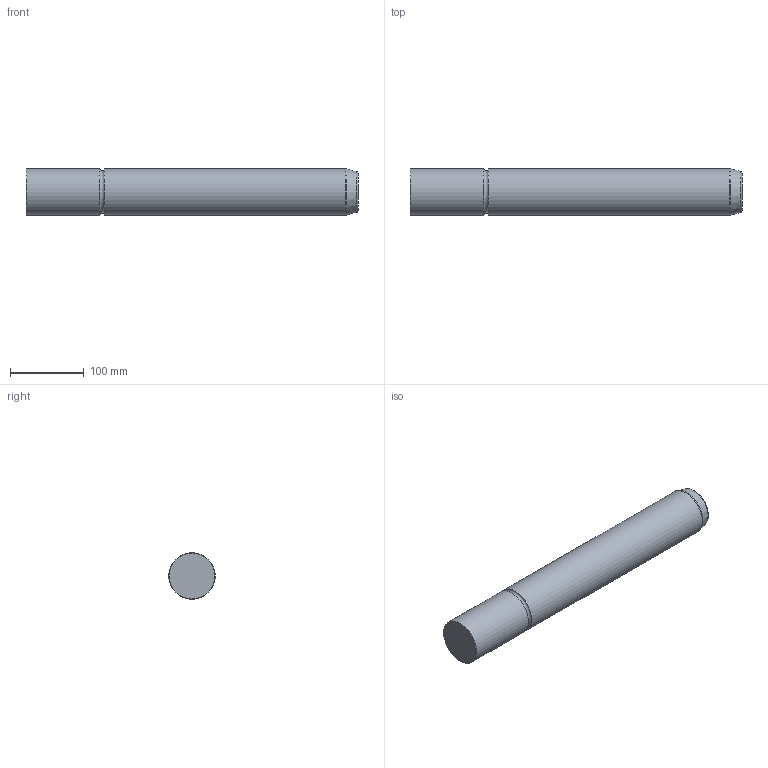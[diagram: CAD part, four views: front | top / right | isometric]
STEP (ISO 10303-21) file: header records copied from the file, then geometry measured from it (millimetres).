
FILE_DESCRIPTION(/* description */ ('Impex Ready, www.impex-ready.pl'),/* implementation_level */ '2;1');
FILE_NAME(/* name */ 'C:\Users\VIKKY\Nextcloud\SM\projekt 10 - części na stronę internetową\Pliki_3D_new\268 Słupy CS\268 CS_STEP\CS63450.ipt.step',/* time_stamp */ '2021-12-20T13:58:43+01:00',/* author */ ('SM'),/* organization */ (''),/* preprocessor_version */ 'ST-DEVELOPER v18.1',/* originating_system */ 'Autodesk Inventor 2021',/* authorisation */ '');
FILE_SCHEMA (('AUTOMOTIVE_DESIGN { 1 0 10303 214 3 1 1 }'));
Length unit declared in the file: millimetre
Products named in the file (1): CS63450
Bounding box: 450 x 63 x 63 mm (x, y, z)
Volume: 1393268.1 mm3; surface area: 94817.7 mm2
Topology: 1 solids, 1 shells, 9 faces, 20 edges, 13 vertices
Faces by surface type: torus 3, cone 2, cylinder 2, plane 2
Full cylindrical faces by diameter (mm): 63 x2
Entity records: 339 total; most frequent: DIRECTION 56, CARTESIAN_POINT 43, ORIENTED_EDGE 40, AXIS2_PLACEMENT_3D 26, EDGE_CURVE 20, CIRCLE 16, VERTEX_POINT 13, STYLED_ITEM 10
